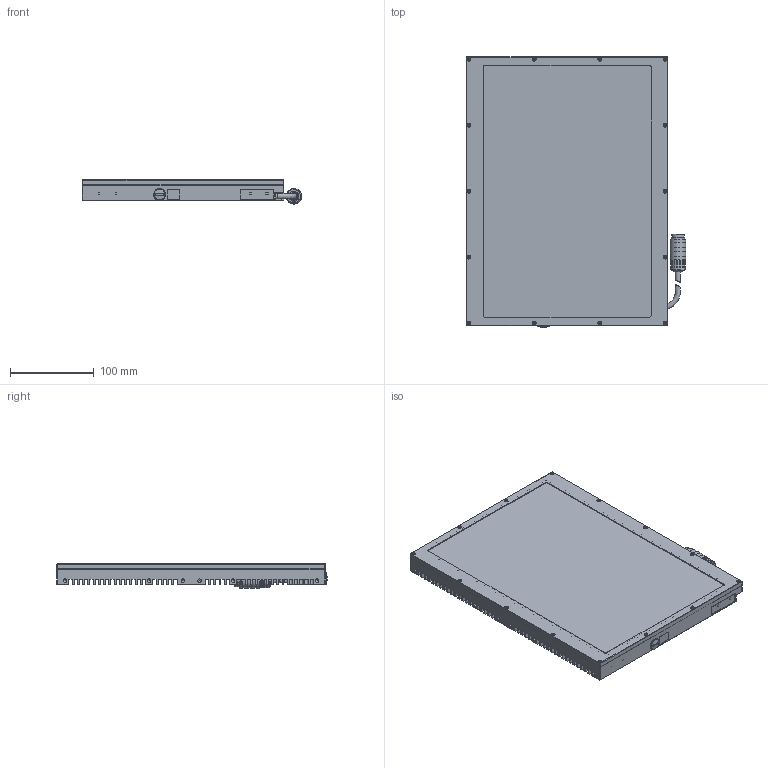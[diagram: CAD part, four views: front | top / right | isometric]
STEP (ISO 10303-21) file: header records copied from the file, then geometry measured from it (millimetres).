
FILE_DESCRIPTION(/* description */ (''),/* implementation_level */ '2;1');
FILE_NAME(/* name */ 'LG3020-BK-V02_MO',/* time_stamp */ '2022-01-19T15:00:19+01:00',/* author */ (''),/* organization */ ('iiM AG'),/* preprocessor_version */ 'ST-DEVELOPER v16.7',/* originating_system */ 'DEX',/* authorisation */ $);
FILE_SCHEMA (('CONFIG_CONTROL_DESIGN'));
Products named in the file (1): LG3020-BK-V02_MO
Bounding box: 261.29 x 321.95 x 28.79 mm (x, y, z)
Volume: 834823.1 mm3; surface area: 488468.8 mm2
Topology: 3 solids, 18 shells, 1415 faces, 3855 edges, 2498 vertices
Faces by surface type: plane 672, cylinder 484, cone 210, torus 18, bspline 18, sphere 13
Full cylindrical faces by diameter (mm): 1 x12, 1.567 x28, 2 x14, 2.1 x10, 2.11 x4, 2.459 x4, 2.6 x4, 3.8 x14, 4.134 x54, 5.2 x1, 6 x2, 6.2 x1, 8 x1, 9 x1, 11 x3, 11.89 x1, 14 x1, 15 x1, 16 x1, 17.5 x1, 18.5 x3, 18.6 x2, 49.5 x1, 50 x1, 51 x1
Entity records: 57156 total; most frequent: CARTESIAN_POINT 14592, ORIENTED_EDGE 6594, DIRECTION 6419, EDGE_CURVE 3297, VERTEX_POINT 2318, AXIS2_PLACEMENT_3D 2317, FACE_BOUND 1853, EDGE_LOOP 1798
